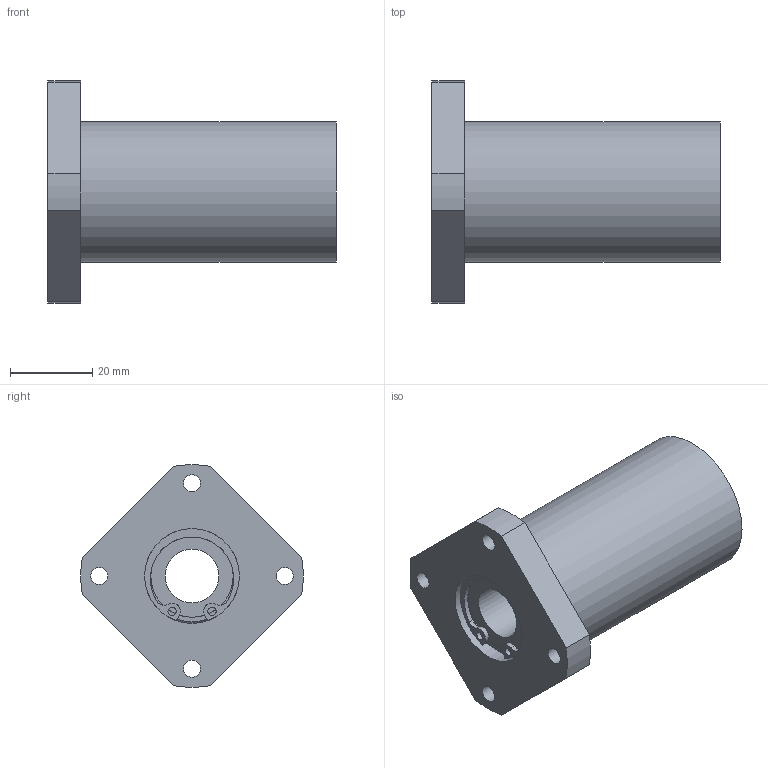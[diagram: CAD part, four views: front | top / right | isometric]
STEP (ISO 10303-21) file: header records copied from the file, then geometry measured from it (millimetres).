
FILE_DESCRIPTION((''),'2;1');
FILE_NAME('D:\製品 (図面)\カタログ用3D\リニアベアリング関連(改)\STEP形式\LFWK\LFWK13.stp','2010-01-22T15:53:31',('Tsuchiya'),(''),'Autodesk Inventor 10','Autodesk Inventor 10','');
FILE_SCHEMA(('AUTOMOTIVE_DESIGN { 1 0 10303 214 1 1 1 1 }'));
Length unit declared in the file: millimetre
Products named in the file (1): LFWK13
Bounding box: 70 x 53.92 x 53.92 mm (x, y, z)
Volume: 59731.7 mm3; surface area: 16813.9 mm2
Topology: 1 solids, 6 shells, 86 faces, 212 edges, 133 vertices
Faces by surface type: bspline 31, cylinder 28, plane 25, torus 2
Full cylindrical faces by diameter (mm): 2 x2, 4.134 x4, 13 x1, 20 x2, 22 x2, 23 x7, 34 x1
Entity records: 2578 total; most frequent: CARTESIAN_POINT 698, DIRECTION 398, ORIENTED_EDGE 330, AXIS2_PLACEMENT_3D 177, EDGE_CURVE 165, EDGE_LOOP 144, CIRCLE 121, VERTEX_POINT 117
